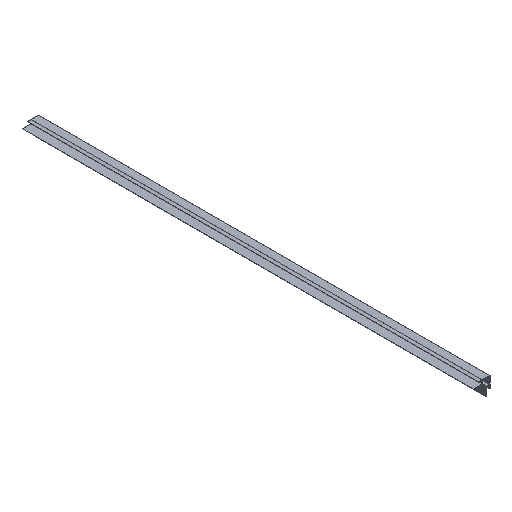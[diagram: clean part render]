
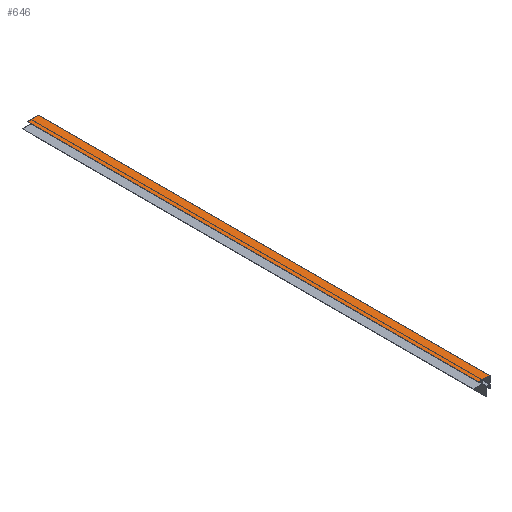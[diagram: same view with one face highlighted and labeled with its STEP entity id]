
A CAD part, isometric view. The second image highlights one B-rep face of the part: STEP entity #646.
In plain terms, the highlighted planar face has unit normal (0, 0, 1).
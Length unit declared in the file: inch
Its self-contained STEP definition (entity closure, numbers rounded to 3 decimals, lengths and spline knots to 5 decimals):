
#22=PLANE('',#712);
#48=FACE_OUTER_BOUND('',#82,.T.);
#82=EDGE_LOOP('',(#479,#480,#481,#482));
#130=LINE('',#1024,#198);
#131=LINE('',#1027,#199);
#132=LINE('',#1029,#200);
#133=LINE('',#1030,#201);
#198=VECTOR('',#828,0.3937);
#199=VECTOR('',#831,0.3937);
#200=VECTOR('',#832,0.3937);
#201=VECTOR('',#833,0.3937);
#293=VERTEX_POINT('',#1020);
#294=VERTEX_POINT('',#1022);
#295=VERTEX_POINT('',#1026);
#296=VERTEX_POINT('',#1028);
#370=EDGE_CURVE('',#293,#294,#130,.T.);
#371=EDGE_CURVE('',#295,#293,#131,.T.);
#372=EDGE_CURVE('',#296,#294,#132,.T.);
#373=EDGE_CURVE('',#295,#296,#133,.T.);
#479=ORIENTED_EDGE('',*,*,#371,.T.);
#480=ORIENTED_EDGE('',*,*,#370,.T.);
#481=ORIENTED_EDGE('',*,*,#372,.F.);
#482=ORIENTED_EDGE('',*,*,#373,.F.);
#646=ADVANCED_FACE('',(#48),#22,.T.);
#712=AXIS2_PLACEMENT_3D('',#1025,#829,#830);
#828=DIRECTION('',(0.,1.,0.));
#829=DIRECTION('center_axis',(0.,0.,1.));
#830=DIRECTION('ref_axis',(1.,0.,0.));
#831=DIRECTION('',(1.,0.,0.));
#832=DIRECTION('',(1.,0.,0.));
#833=DIRECTION('',(0.,1.,0.));
#1020=CARTESIAN_POINT('',(4.56808,0.,0.80618));
#1022=CARTESIAN_POINT('',(4.56808,120.,0.80618));
#1024=CARTESIAN_POINT('',(4.56808,0.,0.80618));
#1025=CARTESIAN_POINT('Origin',(1.61988,0.,0.80618));
#1026=CARTESIAN_POINT('',(1.61988,0.,0.80618));
#1027=CARTESIAN_POINT('',(1.61988,0.,0.80618));
#1028=CARTESIAN_POINT('',(1.61988,120.,0.80618));
#1029=CARTESIAN_POINT('',(1.61988,120.,0.80618));
#1030=CARTESIAN_POINT('',(1.61988,0.,0.80618));
